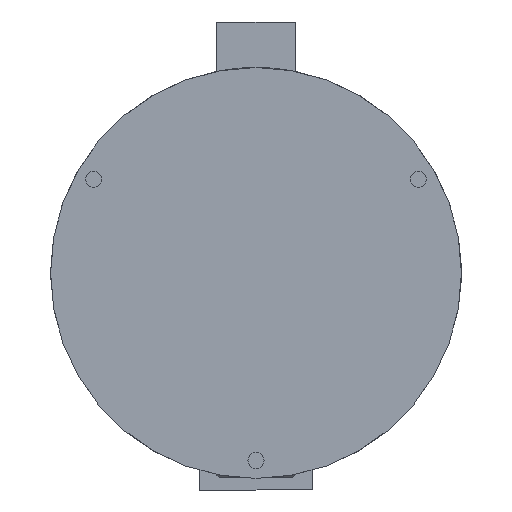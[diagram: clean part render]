
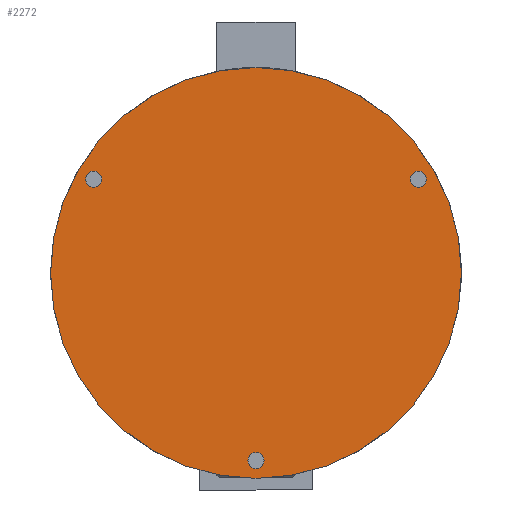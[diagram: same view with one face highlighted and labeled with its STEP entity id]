
A CAD part, front view. The second image highlights one B-rep face of the part: STEP entity #2272.
In plain terms, the highlighted planar face has unit normal (0, -1, 0).
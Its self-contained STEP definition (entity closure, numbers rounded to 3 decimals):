
#35 = CIRCLE ( 'NONE', #8471, 4.5 ) ;
#159 = ORIENTED_EDGE ( 'NONE', *, *, #8656, .T. ) ;
#343 = AXIS2_PLACEMENT_3D ( 'NONE', #438, #5409, #1145 ) ;
#438 = CARTESIAN_POINT ( 'NONE',  ( 0., 0., -105. ) ) ;
#464 = VERTEX_POINT ( 'NONE', #1604 ) ;
#471 = AXIS2_PLACEMENT_3D ( 'NONE', #3436, #8380, #4146 ) ;
#505 = VERTEX_POINT ( 'NONE', #1116 ) ;
#909 = CARTESIAN_POINT ( 'NONE',  ( -90.933, 0., 48. ) ) ;
#1116 = CARTESIAN_POINT ( 'NONE',  ( 0., 0., -100.5 ) ) ;
#1145 = DIRECTION ( 'NONE',  ( 0., 0., 1. ) ) ;
#1277 = FACE_OUTER_BOUND ( 'NONE', #1534, .T. ) ;
#1464 = CARTESIAN_POINT ( 'NONE',  ( 0., 0., -109.5 ) ) ;
#1523 = EDGE_LOOP ( 'NONE', ( #159, #4756 ) ) ;
#1534 = EDGE_LOOP ( 'NONE', ( #3208, #8128 ) ) ;
#1604 = CARTESIAN_POINT ( 'NONE',  ( 0., 0., 115. ) ) ;
#1708 = CARTESIAN_POINT ( 'NONE',  ( 0., 0., 0. ) ) ;
#1873 = DIRECTION ( 'NONE',  ( 0., 0., 1. ) ) ;
#1955 = DIRECTION ( 'NONE',  ( 0., 0., 1. ) ) ;
#2272 = ADVANCED_FACE ( 'NONE', ( #3447, #2796, #3222, #1277 ), #7486, .F. ) ;
#2359 = EDGE_CURVE ( 'NONE', #8696, #8908, #35, .T. ) ;
#2484 = DIRECTION ( 'NONE',  ( 0., 0., 1. ) ) ;
#2537 = AXIS2_PLACEMENT_3D ( 'NONE', #2940, #7883, #3647 ) ;
#2734 = CARTESIAN_POINT ( 'NONE',  ( 90.933, 0., 48. ) ) ;
#2796 = FACE_BOUND ( 'NONE', #5802, .T. ) ;
#2940 = CARTESIAN_POINT ( 'NONE',  ( 0., 0., 0. ) ) ;
#2973 = AXIS2_PLACEMENT_3D ( 'NONE', #1708, #6709, #2484 ) ;
#3004 = ORIENTED_EDGE ( 'NONE', *, *, #3458, .T. ) ;
#3012 = ORIENTED_EDGE ( 'NONE', *, *, #2359, .T. ) ;
#3041 = EDGE_LOOP ( 'NONE', ( #3004, #3389 ) ) ;
#3208 = ORIENTED_EDGE ( 'NONE', *, *, #5819, .F. ) ;
#3222 = FACE_BOUND ( 'NONE', #3041, .T. ) ;
#3389 = ORIENTED_EDGE ( 'NONE', *, *, #6516, .T. ) ;
#3436 = CARTESIAN_POINT ( 'NONE',  ( -90.933, 0., 52.5 ) ) ;
#3447 = FACE_BOUND ( 'NONE', #1523, .T. ) ;
#3458 = EDGE_CURVE ( 'NONE', #505, #6179, #5430, .T. ) ;
#3647 = DIRECTION ( 'NONE',  ( 0., 0., 1. ) ) ;
#3999 = DIRECTION ( 'NONE',  ( 0., 0., 1. ) ) ;
#4146 = DIRECTION ( 'NONE',  ( 0., 0., 1. ) ) ;
#4193 = CARTESIAN_POINT ( 'NONE',  ( 0., 0., -115. ) ) ;
#4273 = CARTESIAN_POINT ( 'NONE',  ( -90.933, 0., 52.5 ) ) ;
#4293 = CIRCLE ( 'NONE', #2973, 115. ) ;
#4406 = DIRECTION ( 'NONE',  ( 0., 1., 0. ) ) ;
#4430 = CARTESIAN_POINT ( 'NONE',  ( 90.933, 0., 52.5 ) ) ;
#4623 = CARTESIAN_POINT ( 'NONE',  ( -90.933, 0., 57. ) ) ;
#4629 = EDGE_CURVE ( 'NONE', #8908, #8696, #5646, .T. ) ;
#4687 = VERTEX_POINT ( 'NONE', #909 ) ;
#4756 = ORIENTED_EDGE ( 'NONE', *, *, #6928, .T. ) ;
#5234 = CIRCLE ( 'NONE', #343, 4.5 ) ;
#5263 = AXIS2_PLACEMENT_3D ( 'NONE', #8663, #6902, #6710 ) ;
#5409 = DIRECTION ( 'NONE',  ( 0., 1., 0. ) ) ;
#5430 = CIRCLE ( 'NONE', #9022, 4.5 ) ;
#5456 = VERTEX_POINT ( 'NONE', #4193 ) ;
#5646 = CIRCLE ( 'NONE', #6351, 4.5 ) ;
#5713 = CARTESIAN_POINT ( 'NONE',  ( 90.933, 0., 57. ) ) ;
#5802 = EDGE_LOOP ( 'NONE', ( #7441, #3012 ) ) ;
#5819 = EDGE_CURVE ( 'NONE', #5456, #464, #7620, .T. ) ;
#6179 = VERTEX_POINT ( 'NONE', #1464 ) ;
#6351 = AXIS2_PLACEMENT_3D ( 'NONE', #4430, #4406, #3999 ) ;
#6390 = EDGE_CURVE ( 'NONE', #464, #5456, #4293, .T. ) ;
#6516 = EDGE_CURVE ( 'NONE', #6179, #505, #5234, .T. ) ;
#6645 = CIRCLE ( 'NONE', #8473, 4.5 ) ;
#6709 = DIRECTION ( 'NONE',  ( 0., 1., 0. ) ) ;
#6710 = DIRECTION ( 'NONE',  ( 0., 0., 1. ) ) ;
#6902 = DIRECTION ( 'NONE',  ( 0., 1., 0. ) ) ;
#6928 = EDGE_CURVE ( 'NONE', #4687, #8386, #8267, .T. ) ;
#7441 = ORIENTED_EDGE ( 'NONE', *, *, #4629, .T. ) ;
#7486 = PLANE ( 'NONE',  #5263 ) ;
#7620 = CIRCLE ( 'NONE', #2537, 115. ) ;
#7883 = DIRECTION ( 'NONE',  ( 0., 1., 0. ) ) ;
#8128 = ORIENTED_EDGE ( 'NONE', *, *, #6390, .F. ) ;
#8267 = CIRCLE ( 'NONE', #471, 4.5 ) ;
#8380 = DIRECTION ( 'NONE',  ( 0., 1., 0. ) ) ;
#8386 = VERTEX_POINT ( 'NONE', #4623 ) ;
#8471 = AXIS2_PLACEMENT_3D ( 'NONE', #9037, #9002, #8973 ) ;
#8473 = AXIS2_PLACEMENT_3D ( 'NONE', #4273, #9144, #1955 ) ;
#8514 = CARTESIAN_POINT ( 'NONE',  ( 0., 0., -105. ) ) ;
#8656 = EDGE_CURVE ( 'NONE', #8386, #4687, #6645, .T. ) ;
#8663 = CARTESIAN_POINT ( 'NONE',  ( 0., 0., 0. ) ) ;
#8696 = VERTEX_POINT ( 'NONE', #2734 ) ;
#8908 = VERTEX_POINT ( 'NONE', #5713 ) ;
#8973 = DIRECTION ( 'NONE',  ( 0., 0., 1. ) ) ;
#9002 = DIRECTION ( 'NONE',  ( 0., 1., 0. ) ) ;
#9022 = AXIS2_PLACEMENT_3D ( 'NONE', #8514, #9140, #1873 ) ;
#9037 = CARTESIAN_POINT ( 'NONE',  ( 90.933, 0., 52.5 ) ) ;
#9140 = DIRECTION ( 'NONE',  ( 0., 1., 0. ) ) ;
#9144 = DIRECTION ( 'NONE',  ( 0., 1., 0. ) ) ;
